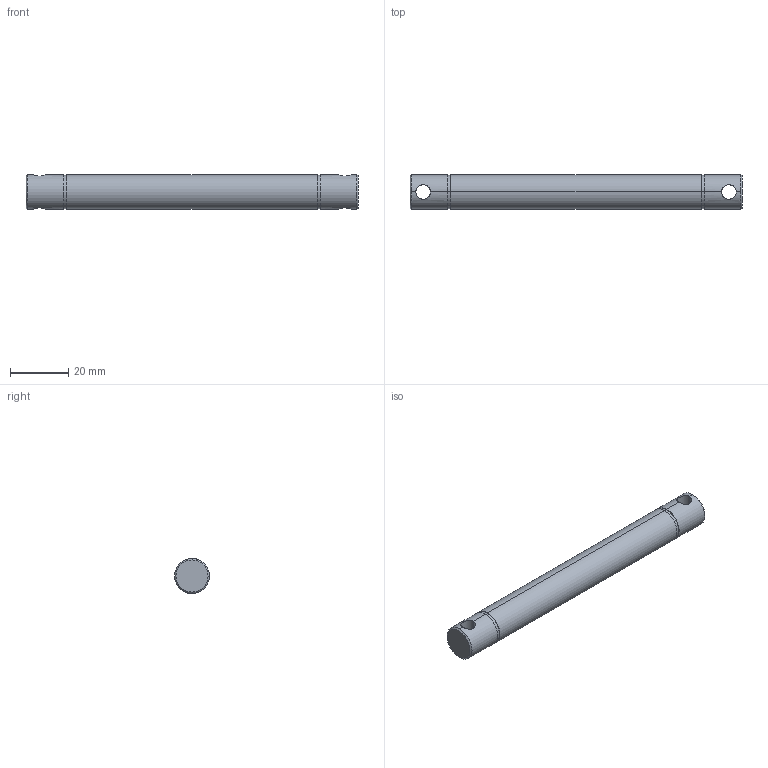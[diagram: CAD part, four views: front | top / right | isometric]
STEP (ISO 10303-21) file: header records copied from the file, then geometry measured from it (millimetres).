
FILE_DESCRIPTION (( 'STEP AP214' ), '1' );
FILE_NAME ('084.030.108.STEP', '2021-02-05T15:33:38', ( '' ), ( '' ), 'SwSTEP 2.0', 'SolidWorks 2018', '' );
FILE_SCHEMA (( 'AUTOMOTIVE_DESIGN' ));
Length unit declared in the file: millimetre
Products named in the file (1): 084.030.108
Bounding box: 114 x 12 x 12 mm (x, y, z)
Volume: 12402.9 mm3; surface area: 4814.3 mm2
Topology: 1 solids, 1 shells, 24 faces, 54 edges, 32 vertices
Faces by surface type: cylinder 14, plane 6, cone 4
Entity records: 976 total; most frequent: CARTESIAN_POINT 351, DIRECTION 120, ORIENTED_EDGE 108, EDGE_CURVE 54, AXIS2_PLACEMENT_3D 49, VERTEX_POINT 32, EDGE_LOOP 28, ADVANCED_FACE 24
